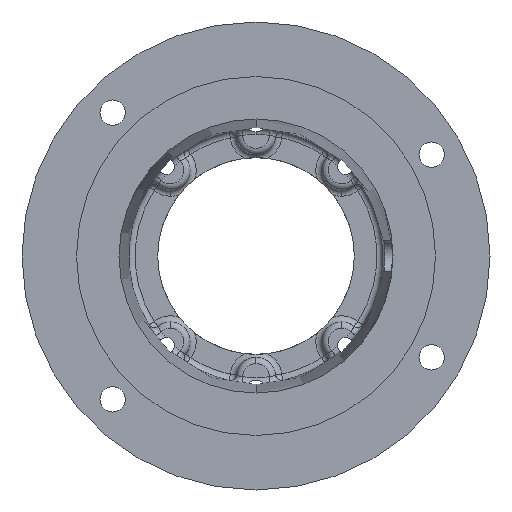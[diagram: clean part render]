
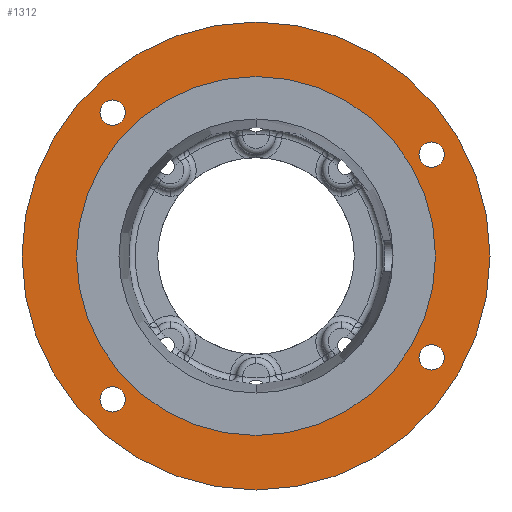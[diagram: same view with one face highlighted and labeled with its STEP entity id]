
A CAD part, front view. The second image highlights one B-rep face of the part: STEP entity #1312.
In plain terms, the highlighted planar face has unit normal (0, -1, 0).
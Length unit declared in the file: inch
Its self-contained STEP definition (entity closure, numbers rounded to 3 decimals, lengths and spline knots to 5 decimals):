
#150 = DIRECTION ( 'NONE',  ( 0., 0., -1. ) ) ;
#197 = AXIS2_PLACEMENT_3D ( 'NONE', #1963, #6248, #2573 ) ;
#229 = PLANE ( 'NONE',  #3282 ) ;
#349 = VERTEX_POINT ( 'NONE', #401 ) ;
#401 = CARTESIAN_POINT ( 'NONE',  ( 2.81458, 0., -1.82813 ) ) ;
#499 = ORIENTED_EDGE ( 'NONE', *, *, #5083, .F. ) ;
#615 = DIRECTION ( 'NONE',  ( 0., 0., -1. ) ) ;
#648 = CIRCLE ( 'NONE', #197, 0.20312 ) ;
#682 = CARTESIAN_POINT ( 'NONE',  ( -2.2981, 0., 2.50122 ) ) ;
#853 = CARTESIAN_POINT ( 'NONE',  ( -2.20315, 0., 0. ) ) ;
#926 = FACE_OUTER_BOUND ( 'NONE', #1232, .T. ) ;
#1029 = CIRCLE ( 'NONE', #7163, 2.876 ) ;
#1068 = VERTEX_POINT ( 'NONE', #1118 ) ;
#1081 = CARTESIAN_POINT ( 'NONE',  ( 2.81458, 0., -1.625 ) ) ;
#1118 = CARTESIAN_POINT ( 'NONE',  ( 0., 0., -2.876 ) ) ;
#1201 = ORIENTED_EDGE ( 'NONE', *, *, #7100, .T. ) ;
#1232 = EDGE_LOOP ( 'NONE', ( #5684, #1201 ) ) ;
#1263 = AXIS2_PLACEMENT_3D ( 'NONE', #7990, #4211, #615 ) ;
#1275 = AXIS2_PLACEMENT_3D ( 'NONE', #6644, #2959, #7308 ) ;
#1285 = AXIS2_PLACEMENT_3D ( 'NONE', #5356, #1736, #6004 ) ;
#1312 = ADVANCED_FACE ( 'NONE', ( #4394, #5778, #4315, #7468, #2532, #926 ), #229, .F. ) ;
#1317 = AXIS2_PLACEMENT_3D ( 'NONE', #1081, #5309, #1687 ) ;
#1343 = AXIS2_PLACEMENT_3D ( 'NONE', #5856, #2214, #6492 ) ;
#1386 = DIRECTION ( 'NONE',  ( 0., -1., 0. ) ) ;
#1406 = ORIENTED_EDGE ( 'NONE', *, *, #7360, .F. ) ;
#1440 = VERTEX_POINT ( 'NONE', #2699 ) ;
#1647 = CARTESIAN_POINT ( 'NONE',  ( 0., 0., 0. ) ) ;
#1687 = DIRECTION ( 'NONE',  ( 0., 0., -1. ) ) ;
#1709 = CIRCLE ( 'NONE', #1263, 0.20312 ) ;
#1736 = DIRECTION ( 'NONE',  ( 0., -1., 0. ) ) ;
#1745 = ORIENTED_EDGE ( 'NONE', *, *, #5004, .F. ) ;
#1963 = CARTESIAN_POINT ( 'NONE',  ( -2.2981, 0., -2.2981 ) ) ;
#2063 = DIRECTION ( 'NONE',  ( 0., 0., 1. ) ) ;
#2214 = DIRECTION ( 'NONE',  ( 0., -1., 0. ) ) ;
#2246 = DIRECTION ( 'NONE',  ( 0., 0., -1. ) ) ;
#2398 = AXIS2_PLACEMENT_3D ( 'NONE', #7052, #3328, #7714 ) ;
#2532 = FACE_BOUND ( 'NONE', #5418, .T. ) ;
#2548 = CARTESIAN_POINT ( 'NONE',  ( -2.2981, 0., 2.2981 ) ) ;
#2573 = DIRECTION ( 'NONE',  ( 0., 0., -1. ) ) ;
#2641 = CIRCLE ( 'NONE', #1343, 2.876 ) ;
#2699 = CARTESIAN_POINT ( 'NONE',  ( 0., 0., 2.876 ) ) ;
#2818 = VERTEX_POINT ( 'NONE', #4791 ) ;
#2959 = DIRECTION ( 'NONE',  ( 0., -1., 0. ) ) ;
#3112 = ORIENTED_EDGE ( 'NONE', *, *, #4966, .F. ) ;
#3114 = CARTESIAN_POINT ( 'NONE',  ( 2.81458, 0., 1.625 ) ) ;
#3141 = DIRECTION ( 'NONE',  ( 0., 0., -1. ) ) ;
#3142 = ORIENTED_EDGE ( 'NONE', *, *, #5052, .F. ) ;
#3282 = AXIS2_PLACEMENT_3D ( 'NONE', #853, #5710, #2063 ) ;
#3328 = DIRECTION ( 'NONE',  ( 0., -1., 0. ) ) ;
#3468 = CIRCLE ( 'NONE', #1275, 0.20312 ) ;
#3547 = EDGE_LOOP ( 'NONE', ( #1406, #5219 ) ) ;
#3696 = DIRECTION ( 'NONE',  ( 0., 0., -1. ) ) ;
#3748 = DIRECTION ( 'NONE',  ( 0., -1., 0. ) ) ;
#3820 = CIRCLE ( 'NONE', #4175, 0.20312 ) ;
#3851 = VERTEX_POINT ( 'NONE', #5953 ) ;
#3900 = AXIS2_PLACEMENT_3D ( 'NONE', #1647, #5896, #2246 ) ;
#3904 = VERTEX_POINT ( 'NONE', #4769 ) ;
#3967 = ORIENTED_EDGE ( 'NONE', *, *, #7362, .F. ) ;
#3975 = CARTESIAN_POINT ( 'NONE',  ( 0., 0., 3.75 ) ) ;
#4036 = VERTEX_POINT ( 'NONE', #5019 ) ;
#4175 = AXIS2_PLACEMENT_3D ( 'NONE', #2548, #6841, #3141 ) ;
#4207 = VERTEX_POINT ( 'NONE', #6285 ) ;
#4211 = DIRECTION ( 'NONE',  ( 0., -1., 0. ) ) ;
#4235 = CIRCLE ( 'NONE', #2398, 3.75 ) ;
#4255 = CARTESIAN_POINT ( 'NONE',  ( 0., 0., -3.75 ) ) ;
#4272 = AXIS2_PLACEMENT_3D ( 'NONE', #4992, #1386, #5623 ) ;
#4315 = FACE_BOUND ( 'NONE', #6115, .T. ) ;
#4342 = ORIENTED_EDGE ( 'NONE', *, *, #7391, .F. ) ;
#4394 = FACE_BOUND ( 'NONE', #3547, .T. ) ;
#4769 = CARTESIAN_POINT ( 'NONE',  ( 2.81458, 0., -1.42188 ) ) ;
#4791 = CARTESIAN_POINT ( 'NONE',  ( 2.81458, 0., 1.82812 ) ) ;
#4925 = VERTEX_POINT ( 'NONE', #3975 ) ;
#4930 = EDGE_CURVE ( 'NONE', #1440, #1068, #2641, .T. ) ;
#4961 = EDGE_LOOP ( 'NONE', ( #3967, #3112 ) ) ;
#4966 = EDGE_CURVE ( 'NONE', #3904, #349, #7197, .T. ) ;
#4992 = CARTESIAN_POINT ( 'NONE',  ( 2.81458, 0., -1.625 ) ) ;
#5004 = EDGE_CURVE ( 'NONE', #2818, #4207, #6769, .T. ) ;
#5019 = CARTESIAN_POINT ( 'NONE',  ( -2.2981, 0., 2.09497 ) ) ;
#5048 = CARTESIAN_POINT ( 'NONE',  ( -2.2981, 0., -2.50122 ) ) ;
#5052 = EDGE_CURVE ( 'NONE', #7287, #4036, #3468, .T. ) ;
#5083 = EDGE_CURVE ( 'NONE', #3851, #6280, #1709, .T. ) ;
#5219 = ORIENTED_EDGE ( 'NONE', *, *, #4930, .F. ) ;
#5268 = ORIENTED_EDGE ( 'NONE', *, *, #7373, .F. ) ;
#5309 = DIRECTION ( 'NONE',  ( 0., -1., 0. ) ) ;
#5356 = CARTESIAN_POINT ( 'NONE',  ( 2.81458, 0., 1.625 ) ) ;
#5418 = EDGE_LOOP ( 'NONE', ( #6577, #499 ) ) ;
#5470 = CIRCLE ( 'NONE', #7165, 0.20312 ) ;
#5623 = DIRECTION ( 'NONE',  ( 0., 0., -1. ) ) ;
#5684 = ORIENTED_EDGE ( 'NONE', *, *, #5936, .T. ) ;
#5710 = DIRECTION ( 'NONE',  ( 0., 1., 0. ) ) ;
#5778 = FACE_BOUND ( 'NONE', #4961, .T. ) ;
#5856 = CARTESIAN_POINT ( 'NONE',  ( 0., 0., 0. ) ) ;
#5896 = DIRECTION ( 'NONE',  ( 0., -1., 0. ) ) ;
#5936 = EDGE_CURVE ( 'NONE', #7279, #4925, #4235, .T. ) ;
#5953 = CARTESIAN_POINT ( 'NONE',  ( -2.2981, 0., -2.09497 ) ) ;
#6004 = DIRECTION ( 'NONE',  ( 0., 0., -1. ) ) ;
#6115 = EDGE_LOOP ( 'NONE', ( #5268, #1745 ) ) ;
#6248 = DIRECTION ( 'NONE',  ( 0., -1., 0. ) ) ;
#6280 = VERTEX_POINT ( 'NONE', #5048 ) ;
#6285 = CARTESIAN_POINT ( 'NONE',  ( 2.81458, 0., 1.42187 ) ) ;
#6492 = DIRECTION ( 'NONE',  ( 0., 0., -1. ) ) ;
#6577 = ORIENTED_EDGE ( 'NONE', *, *, #7402, .F. ) ;
#6596 = EDGE_LOOP ( 'NONE', ( #4342, #3142 ) ) ;
#6644 = CARTESIAN_POINT ( 'NONE',  ( -2.2981, 0., 2.2981 ) ) ;
#6769 = CIRCLE ( 'NONE', #1285, 0.20312 ) ;
#6841 = DIRECTION ( 'NONE',  ( 0., -1., 0. ) ) ;
#7052 = CARTESIAN_POINT ( 'NONE',  ( 0., 0., 0. ) ) ;
#7100 = EDGE_CURVE ( 'NONE', #4925, #7279, #7477, .T. ) ;
#7163 = AXIS2_PLACEMENT_3D ( 'NONE', #7528, #3748, #150 ) ;
#7165 = AXIS2_PLACEMENT_3D ( 'NONE', #3114, #7473, #3696 ) ;
#7197 = CIRCLE ( 'NONE', #1317, 0.20312 ) ;
#7279 = VERTEX_POINT ( 'NONE', #4255 ) ;
#7287 = VERTEX_POINT ( 'NONE', #682 ) ;
#7308 = DIRECTION ( 'NONE',  ( 0., 0., -1. ) ) ;
#7360 = EDGE_CURVE ( 'NONE', #1068, #1440, #1029, .T. ) ;
#7362 = EDGE_CURVE ( 'NONE', #349, #3904, #7378, .T. ) ;
#7373 = EDGE_CURVE ( 'NONE', #4207, #2818, #5470, .T. ) ;
#7378 = CIRCLE ( 'NONE', #4272, 0.20312 ) ;
#7391 = EDGE_CURVE ( 'NONE', #4036, #7287, #3820, .T. ) ;
#7402 = EDGE_CURVE ( 'NONE', #6280, #3851, #648, .T. ) ;
#7468 = FACE_BOUND ( 'NONE', #6596, .T. ) ;
#7473 = DIRECTION ( 'NONE',  ( 0., -1., 0. ) ) ;
#7477 = CIRCLE ( 'NONE', #3900, 3.75 ) ;
#7528 = CARTESIAN_POINT ( 'NONE',  ( 0., 0., 0. ) ) ;
#7714 = DIRECTION ( 'NONE',  ( 0., 0., -1. ) ) ;
#7990 = CARTESIAN_POINT ( 'NONE',  ( -2.2981, 0., -2.2981 ) ) ;
